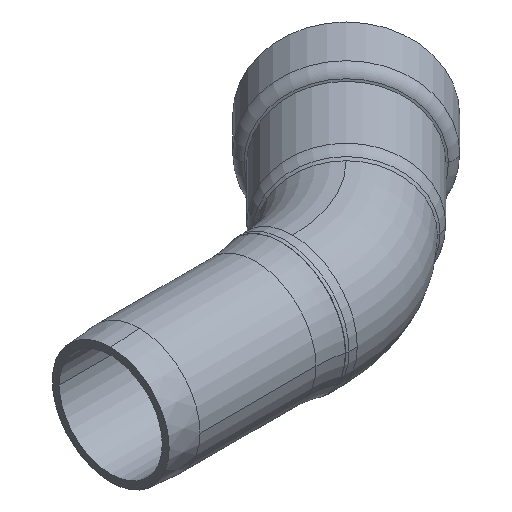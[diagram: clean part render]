
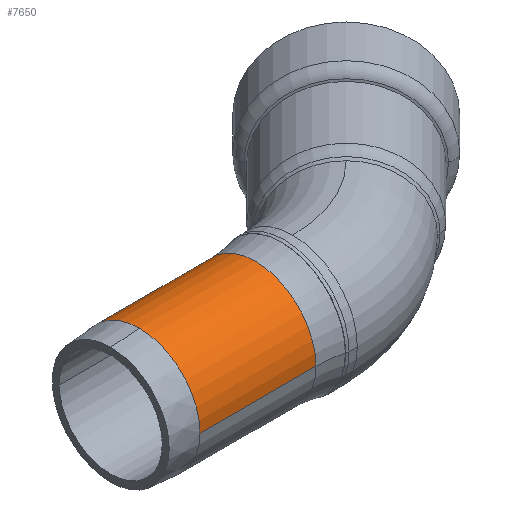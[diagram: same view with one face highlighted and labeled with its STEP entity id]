
A CAD part, isometric view. The second image highlights one B-rep face of the part: STEP entity #7650.
In plain terms, the highlighted cylindrical face has radius 21.15 mm (diameter 42.3 mm), a partial arc.
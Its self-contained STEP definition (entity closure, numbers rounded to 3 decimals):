
#5850=CARTESIAN_POINT('',(-124.037,0.,21.15))
;
#5860=VERTEX_POINT('',#5850);
#6060=CARTESIAN_POINT('',(-124.037,0.,
0.));
#6070=DIRECTION('',(1.,0.,0.));
#6080=DIRECTION('',(0.,-1.,0.));
#6090=AXIS2_PLACEMENT_3D('',#6060,#6070,#6080);
#6100=CIRCLE('',#6090,21.15);
#6110=CARTESIAN_POINT('',(-124.037,21.15,0.))
;
#6120=VERTEX_POINT('',#6110);
#6150=EDGE_CURVE('',#6120,#5860,#6100,.T.);
#7300=CARTESIAN_POINT('',(-106.537,0.,
0.));
#7310=DIRECTION('',(1.,0.,0.));
#7320=DIRECTION('',(0.,-1.,0.));
#7330=AXIS2_PLACEMENT_3D('',#7300,#7310,#7320);
#7340=CYLINDRICAL_SURFACE('',#7330,21.15);
#7350=CARTESIAN_POINT('',(-106.537,21.15,0.))
;
#7360=DIRECTION('',(1.,0.,0.));
#7370=VECTOR('',#7360,1.);
#7380=LINE('',#7350,#7370);
#7390=CARTESIAN_POINT('',(-83.553,21.15,0.))
;
#7400=VERTEX_POINT('',#7390);
#7410=EDGE_CURVE('',#6120,#7400,#7380,.T.);
#7420=ORIENTED_EDGE('',*,*,#7410,.F.);
#7430=CARTESIAN_POINT('',(-83.553,0.,
0.));
#7440=DIRECTION('',(1.,0.,0.));
#7450=DIRECTION('',(0.,-1.,0.));
#7460=AXIS2_PLACEMENT_3D('',#7430,#7440,#7450);
#7470=CIRCLE('',#7460,21.15);
#7480=CARTESIAN_POINT('',(-83.553,-21.15,0.)
);
#7490=VERTEX_POINT('',#7480);
#7500=EDGE_CURVE('',#7400,#7490,#7470,.T.);
#7510=ORIENTED_EDGE('',*,*,#7500,.F.);
#7520=CARTESIAN_POINT('',(-106.537,-21.15,0.
));
#7530=DIRECTION('',(1.,0.,0.));
#7540=VECTOR('',#7530,1.);
#7550=LINE('',#7520,#7540);
#7560=CARTESIAN_POINT('',(-124.037,-21.15,0.)
);
#7570=VERTEX_POINT('',#7560);
#7580=EDGE_CURVE('',#7570,#7490,#7550,.T.);
#7590=ORIENTED_EDGE('',*,*,#7580,.T.);
#7600=EDGE_CURVE('',#5860,#7570,#6100,.T.);
#7610=ORIENTED_EDGE('',*,*,#7600,.T.);
#7620=ORIENTED_EDGE('',*,*,#6150,.T.);
#7630=EDGE_LOOP('',(#7620,#7610,#7590,#7510,#7420));
#7640=FACE_OUTER_BOUND('',#7630,.T.);
#7650=ADVANCED_FACE('',(#7640),#7340,.T.);
